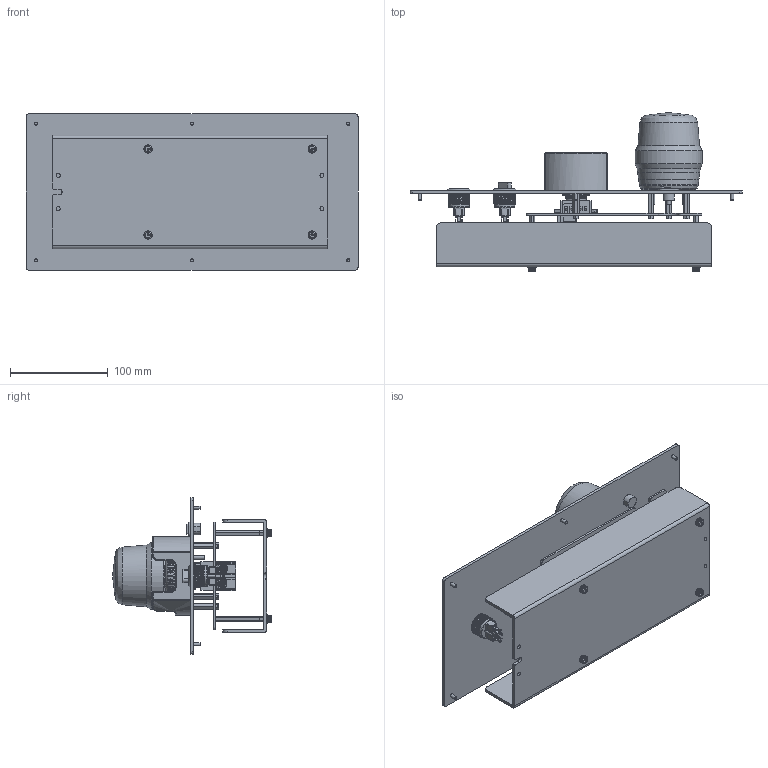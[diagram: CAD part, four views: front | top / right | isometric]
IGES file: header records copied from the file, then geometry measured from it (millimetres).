
Global section: file name: 2022.07.14_TWC-TX-STA-PNL; native system: Autodesk Inventor 2021; preprocessor: unknown; author: eunsol jang; date: 20220714.173812; units: inch
Bounding box: 340 x 162.55 x 160 mm (x, y, z)
Volume: 724792.5 mm3; surface area: 330556.4 mm2
Topology: 7 solids, 7 shells, 5518 faces, 15218 edges, 10108 vertices
Faces by surface type: bspline 5518
